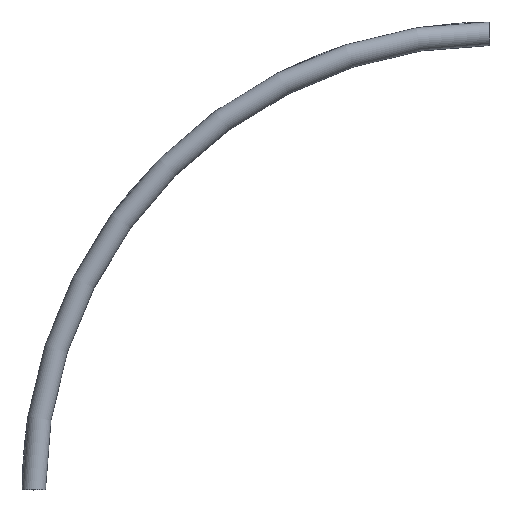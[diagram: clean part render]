
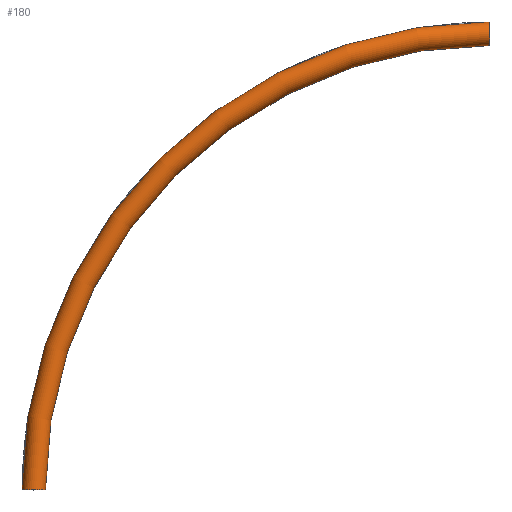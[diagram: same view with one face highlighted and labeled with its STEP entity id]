
A CAD part, top view. The second image highlights one B-rep face of the part: STEP entity #180.
In plain terms, the highlighted toroidal (fillet/blend) face has major radius 975 mm and minor radius 25 mm.
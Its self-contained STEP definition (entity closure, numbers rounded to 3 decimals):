
#152 = VERTEX_POINT ( 'NONE', #563 ) ;
#153 = ORIENTED_EDGE ( 'NONE', *, *, #154, .T. ) ;
#154 = EDGE_CURVE ( 'NONE', #152, #168, #558, .T. ) ;
#155 = VERTEX_POINT ( 'NONE', #604 ) ;
#163 = ORIENTED_EDGE ( 'NONE', *, *, #176, .T. ) ;
#165 = ORIENTED_EDGE ( 'NONE', *, *, #167, .F. ) ;
#166 = VERTEX_POINT ( 'NONE', #597 ) ;
#167 = EDGE_CURVE ( 'NONE', #166, #168, #596, .T. ) ;
#168 = VERTEX_POINT ( 'NONE', #591 ) ;
#171 = EDGE_CURVE ( 'NONE', #155, #166, #587, .T. ) ;
#174 = ORIENTED_EDGE ( 'NONE', *, *, #171, .F. ) ;
#176 = EDGE_CURVE ( 'NONE', #155, #152, #626, .T. ) ;
#180 = ADVANCED_FACE ( 'NONE', ( #617 ), #616, .T. ) ;
#181 = EDGE_LOOP ( 'NONE', ( #174, #163, #153, #165 ) ) ;
#558 = CIRCLE ( 'NONE', #608, 25. ) ;
#563 = CARTESIAN_POINT ( 'NONE',  ( -1000., 0., 0. ) ) ;
#580 = DIRECTION ( 'NONE',  ( 0., 0., 1. ) ) ;
#581 = DIRECTION ( 'NONE',  ( 1., 0., 0. ) ) ;
#582 = CARTESIAN_POINT ( 'NONE',  ( 0., 975., 0. ) ) ;
#583 = AXIS2_PLACEMENT_3D ( 'NONE', #582, #581, #580 ) ;
#587 = CIRCLE ( 'NONE', #583, 25. ) ;
#591 = CARTESIAN_POINT ( 'NONE',  ( -950., 0., 0. ) ) ;
#592 = DIRECTION ( 'NONE',  ( 1., 0., 0. ) ) ;
#593 = DIRECTION ( 'NONE',  ( 0., 0., 1. ) ) ;
#594 = CARTESIAN_POINT ( 'NONE',  ( 0., 0., 0. ) ) ;
#595 = AXIS2_PLACEMENT_3D ( 'NONE', #594, #593, #592 ) ;
#596 = CIRCLE ( 'NONE', #595, 950. ) ;
#597 = CARTESIAN_POINT ( 'NONE',  ( 0., 950., 0. ) ) ;
#604 = CARTESIAN_POINT ( 'NONE',  ( 0., 1000., 0. ) ) ;
#605 = DIRECTION ( 'NONE',  ( 0., 0., 1. ) ) ;
#606 = DIRECTION ( 'NONE',  ( 0., 1., 0. ) ) ;
#607 = CARTESIAN_POINT ( 'NONE',  ( -975., 0., 0. ) ) ;
#608 = AXIS2_PLACEMENT_3D ( 'NONE', #607, #606, #605 ) ;
#612 = DIRECTION ( 'NONE',  ( 1., 0., 0. ) ) ;
#613 = DIRECTION ( 'NONE',  ( 0., 0., 1. ) ) ;
#614 = CARTESIAN_POINT ( 'NONE',  ( 0., 0., 0. ) ) ;
#615 = AXIS2_PLACEMENT_3D ( 'NONE', #614, #613, #612 ) ;
#616 = TOROIDAL_SURFACE ( 'NONE', #615, 975., 25. ) ;
#617 = FACE_OUTER_BOUND ( 'NONE', #181, .T. ) ;
#622 = DIRECTION ( 'NONE',  ( 1., 0., 0. ) ) ;
#623 = DIRECTION ( 'NONE',  ( 0., 0., 1. ) ) ;
#624 = CARTESIAN_POINT ( 'NONE',  ( 0., 0., 0. ) ) ;
#625 = AXIS2_PLACEMENT_3D ( 'NONE', #624, #623, #622 ) ;
#626 = CIRCLE ( 'NONE', #625, 1000. ) ;
